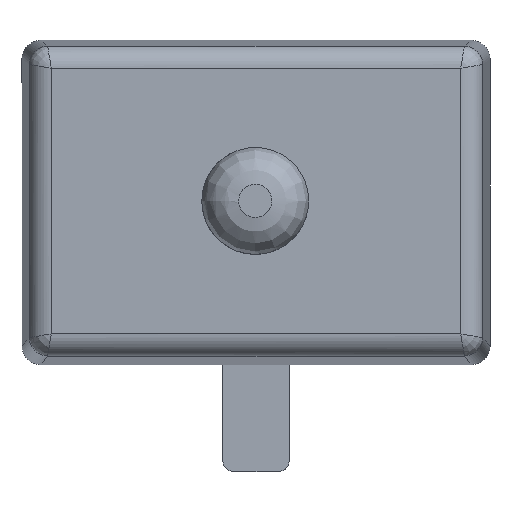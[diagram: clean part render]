
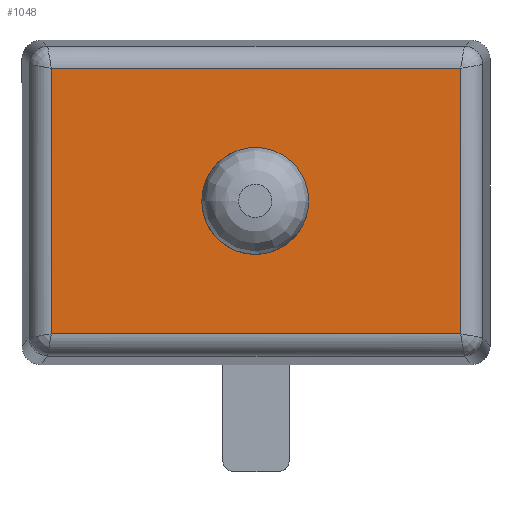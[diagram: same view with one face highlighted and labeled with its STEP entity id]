
A CAD part, top view. The second image highlights one B-rep face of the part: STEP entity #1048.
In plain terms, the highlighted planar face has unit normal (0, 0, 1).
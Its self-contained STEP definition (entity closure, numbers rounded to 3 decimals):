
#118=LINE('',#1546,#176);
#119=LINE('',#1774,#177);
#120=LINE('',#1894,#178);
#121=LINE('',#2014,#179);
#176=VECTOR('',#1270,1000.);
#177=VECTOR('',#1273,1000.);
#178=VECTOR('',#1276,1000.);
#179=VECTOR('',#1279,1000.);
#194=PLANE('',#1111);
#376=ORIENTED_EDGE('',*,*,#488,.T.);
#377=ORIENTED_EDGE('',*,*,#481,.F.);
#378=ORIENTED_EDGE('',*,*,#477,.F.);
#379=ORIENTED_EDGE('',*,*,#487,.F.);
#380=ORIENTED_EDGE('',*,*,#484,.F.);
#477=EDGE_CURVE('',#553,#554,#118,.T.);
#481=EDGE_CURVE('',#554,#555,#119,.T.);
#484=EDGE_CURVE('',#555,#556,#120,.T.);
#487=EDGE_CURVE('',#556,#553,#121,.T.);
#488=EDGE_CURVE('',#557,#557,#576,.T.);
#553=VERTEX_POINT('',#1545);
#554=VERTEX_POINT('',#1547);
#555=VERTEX_POINT('',#1775);
#556=VERTEX_POINT('',#1895);
#557=VERTEX_POINT('',#2017);
#576=CIRCLE('',#1112,1.45);
#621=EDGE_LOOP('',(#376));
#622=EDGE_LOOP('',(#377,#378,#379,#380));
#672=FACE_BOUND('',#621,.T.);
#673=FACE_BOUND('',#622,.T.);
#1048=ADVANCED_FACE('',(#672,#673),#194,.T.);
#1111=AXIS2_PLACEMENT_3D('',#2015,#1280,#1281);
#1112=AXIS2_PLACEMENT_3D('',#2016,#1282,#1283);
#1270=DIRECTION('',(-1.,0.,0.));
#1273=DIRECTION('',(0.,1.,0.));
#1276=DIRECTION('',(1.,0.,0.));
#1279=DIRECTION('',(0.,-1.,0.));
#1280=DIRECTION('',(0.,0.,1.));
#1281=DIRECTION('',(1.,0.,0.));
#1282=DIRECTION('',(0.,0.,-1.));
#1283=DIRECTION('',(-1.,0.,0.));
#1545=CARTESIAN_POINT('',(21.22,30.495,15.967));
#1546=CARTESIAN_POINT('',(15.665,30.495,15.967));
#1547=CARTESIAN_POINT('',(10.111,30.495,15.967));
#1774=CARTESIAN_POINT('',(10.111,34.099,15.967));
#1775=CARTESIAN_POINT('',(10.111,37.704,15.967));
#1894=CARTESIAN_POINT('',(15.665,37.704,15.967));
#1895=CARTESIAN_POINT('',(21.22,37.704,15.967));
#2014=CARTESIAN_POINT('',(21.22,34.099,15.967));
#2015=CARTESIAN_POINT('',(8.045,28.819,15.967));
#2016=CARTESIAN_POINT('',(15.645,34.099,15.967));
#2017=CARTESIAN_POINT('',(14.195,34.099,15.967));
